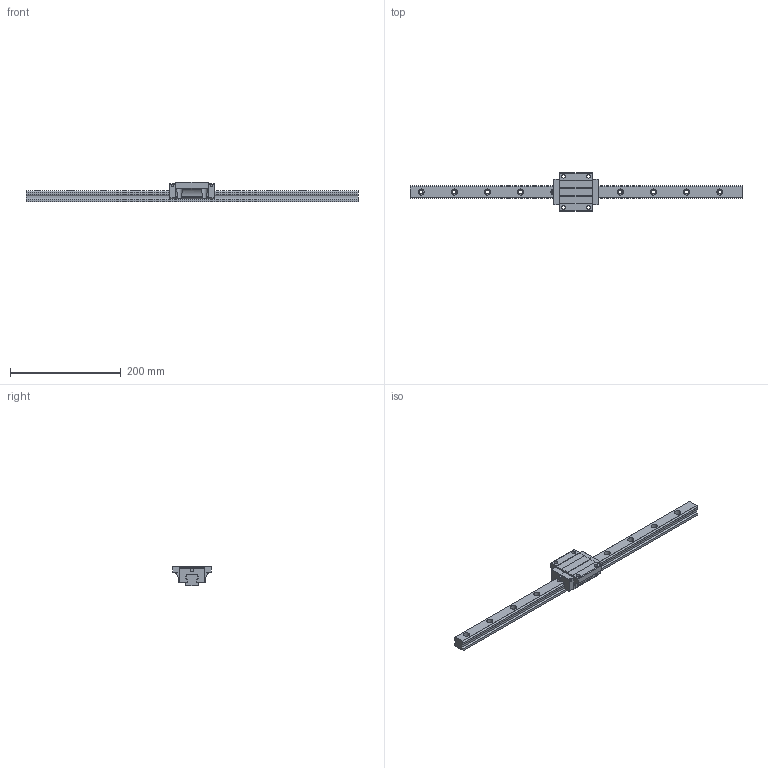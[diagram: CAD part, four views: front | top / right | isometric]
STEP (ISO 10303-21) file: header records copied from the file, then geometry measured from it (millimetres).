
FILE_DESCRIPTION (( 'STEP AP203' ), '1' );
FILE_NAME ('TRH25FN-XN.STEP', '2024-05-09T07:16:51', ( '' ), ( '' ), 'SwSTEP 2.0', 'SolidWorks 2022', '' );
FILE_SCHEMA (( 'CONFIG_CONTROL_DESIGN' ));
Length unit declared in the file: millimetre
Products named in the file (1): TRH25FN-XN
Bounding box: 600 x 70 x 36 mm (x, y, z)
Volume: 333709.6 mm3; surface area: 80364.3 mm2
Topology: 2 solids, 2 shells, 230 faces, 622 edges, 408 vertices
Faces by surface type: cylinder 130, plane 96, sphere 4
Entity records: 7853 total; most frequent: CARTESIAN_POINT 1797, DIRECTION 1276, ORIENTED_EDGE 1236, EDGE_CURVE 618, AXIS2_PLACEMENT_3D 459, VERTEX_POINT 408, VECTOR 358, LINE 358
